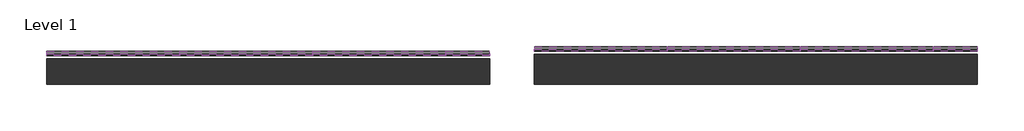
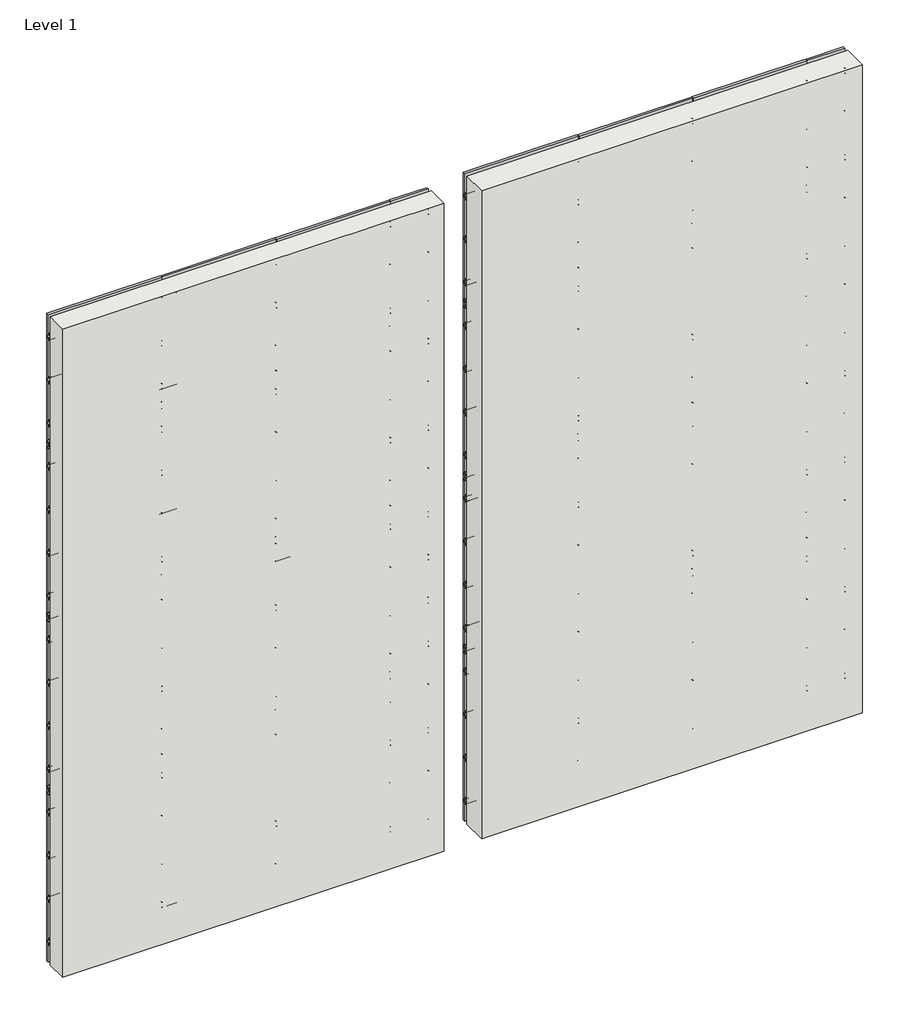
# One storey, incomplete: 32 plates, 24 members, 2 walls.
"""IFC4 building model written with IfcOpenShell, lengths in millimetres."""

from ifc_helpers import new_model, si_unit, origin, origin_with_axes, place, context, project, spatial, polyline, outline, extrude, transform, mapped, element, save
from components import rectangular_mullion_kws_revealrail_mullion_9bbd98a8, rectangular_mullion_kws_revealrail_mullion_add762a1, rectangular_mullion_kws_revealrail_mullion_47fc8865, plate_96b6a4fe, plate_c225038f, plate_bb21e225, plate_c696ad90

model = new_model("IFC4")

# Units and contexts
model_context = context("Model", 3, world=origin())
ifc_project = project(units=[si_unit("LENGTHUNIT", "METRE", prefix="MILLI")], contexts=[model_context])

# Site, building, storey
site = spatial("IfcSite", under=ifc_project)
building = spatial("IfcBuilding", under=site)
storey = spatial("IfcBuildingStorey", under=building, Name="Level 1", Elevation=0.0)

# Members
placement = place(None, origin())
rectangular_mullion_kws_revealrail_mullion_shape = rectangular_mullion_kws_revealrail_mullion_9bbd98a8(model_context)
element("IfcMember", 1, ObjectType="Rectangular Mullion : KWS_RevealRail_Mullion", at=placement, inside=storey, context=model_context, shape_type="MappedRepresentation", body=[
    mapped(rectangular_mullion_kws_revealrail_mullion_shape, transform((2855.9764743, 7373.7586092, 2438.4), x_axis=(0.0, 0.0, 1.0), y_axis=(0.0, -1.0, 0.0), z_axis=(1.0, 0.0, 0.0))),
])
element("IfcMember", 2, ObjectType="Rectangular Mullion : KWS_RevealRail_Mullion", at=placement, inside=storey, context=model_context, shape_type="MappedRepresentation", body=[
    mapped(rectangular_mullion_kws_revealrail_mullion_shape, transform((2855.9764743, 7373.7586092, 4876.8), x_axis=(0.0, 0.0, 1.0), y_axis=(0.0, -1.0, 0.0), z_axis=(1.0, 0.0, 0.0))),
])
element("IfcMember", 3, ObjectType="Rectangular Mullion : KWS_RevealRail_Mullion", at=placement, inside=storey, context=model_context, shape_type="MappedRepresentation", body=[
    mapped(rectangular_mullion_kws_revealrail_mullion_shape, transform((2855.9764743, 7373.7586092, 7315.2), x_axis=(0.0, 0.0, 1.0), y_axis=(0.0, -1.0, 0.0), z_axis=(1.0, 0.0, 0.0))),
])
element("IfcMember", 4, ObjectType="Rectangular Mullion : KWS_RevealRail_Mullion", at=placement, inside=storey, context=model_context, shape_type="MappedRepresentation", body=[
    mapped(rectangular_mullion_kws_revealrail_mullion_shape, transform((8443.9764743, 7424.5586092, 2438.4), x_axis=(0.0, 0.0, 1.0), y_axis=(0.0, -1.0, 0.0), z_axis=(1.0, 0.0, 0.0))),
])
element("IfcMember", 5, ObjectType="Rectangular Mullion : KWS_RevealRail_Mullion", at=placement, inside=storey, context=model_context, shape_type="MappedRepresentation", body=[
    mapped(rectangular_mullion_kws_revealrail_mullion_shape, transform((8443.9764743, 7424.5586092, 4876.8), x_axis=(0.0, 0.0, 1.0), y_axis=(0.0, -1.0, 0.0), z_axis=(1.0, 0.0, 0.0))),
])
element("IfcMember", 6, ObjectType="Rectangular Mullion : KWS_RevealRail_Mullion", at=placement, inside=storey, context=model_context, shape_type="MappedRepresentation", body=[
    mapped(rectangular_mullion_kws_revealrail_mullion_shape, transform((8443.9764743, 7424.5586092, 7315.2), x_axis=(0.0, 0.0, 1.0), y_axis=(0.0, -1.0, 0.0), z_axis=(1.0, 0.0, 0.0))),
])
rectangular_mullion_kws_revealrail_mullion_2_shape = rectangular_mullion_kws_revealrail_mullion_add762a1(model_context)
element("IfcMember", 7, ObjectType="Rectangular Mullion : KWS_RevealRail_Mullion", at=placement, inside=storey, context=model_context, shape_type="MappedRepresentation", body=[
    mapped(rectangular_mullion_kws_revealrail_mullion_2_shape, transform((4379.9764743, 7373.7586092, 2438.4), x_axis=(0.0, 0.0, 1.0), y_axis=(0.0, -1.0, 0.0), z_axis=(1.0, 0.0, 0.0))),
])
element("IfcMember", 8, ObjectType="Rectangular Mullion : KWS_RevealRail_Mullion", at=placement, inside=storey, context=model_context, shape_type="MappedRepresentation", body=[
    mapped(rectangular_mullion_kws_revealrail_mullion_2_shape, transform((5903.9764743, 7373.7586092, 2438.4), x_axis=(0.0, 0.0, 1.0), y_axis=(0.0, -1.0, 0.0), z_axis=(1.0, 0.0, 0.0))),
])
element("IfcMember", 9, ObjectType="Rectangular Mullion : KWS_RevealRail_Mullion", at=placement, inside=storey, context=model_context, shape_type="MappedRepresentation", body=[
    mapped(rectangular_mullion_kws_revealrail_mullion_2_shape, transform((4379.9764743, 7373.7586092, 4876.8), x_axis=(0.0, 0.0, 1.0), y_axis=(0.0, -1.0, 0.0), z_axis=(1.0, 0.0, 0.0))),
])
element("IfcMember", 10, ObjectType="Rectangular Mullion : KWS_RevealRail_Mullion", at=placement, inside=storey, context=model_context, shape_type="MappedRepresentation", body=[
    mapped(rectangular_mullion_kws_revealrail_mullion_2_shape, transform((5903.9764743, 7373.7586092, 4876.8), x_axis=(0.0, 0.0, 1.0), y_axis=(0.0, -1.0, 0.0), z_axis=(1.0, 0.0, 0.0))),
])
element("IfcMember", 11, ObjectType="Rectangular Mullion : KWS_RevealRail_Mullion", at=placement, inside=storey, context=model_context, shape_type="MappedRepresentation", body=[
    mapped(rectangular_mullion_kws_revealrail_mullion_2_shape, transform((4379.9764743, 7373.7586092, 7315.2), x_axis=(0.0, 0.0, 1.0), y_axis=(0.0, -1.0, 0.0), z_axis=(1.0, 0.0, 0.0))),
])
element("IfcMember", 12, ObjectType="Rectangular Mullion : KWS_RevealRail_Mullion", at=placement, inside=storey, context=model_context, shape_type="MappedRepresentation", body=[
    mapped(rectangular_mullion_kws_revealrail_mullion_2_shape, transform((5903.9764743, 7373.7586092, 7315.2), x_axis=(0.0, 0.0, 1.0), y_axis=(0.0, -1.0, 0.0), z_axis=(1.0, 0.0, 0.0))),
])
element("IfcMember", 13, ObjectType="Rectangular Mullion : KWS_RevealRail_Mullion", at=placement, inside=storey, context=model_context, shape_type="MappedRepresentation", body=[
    mapped(rectangular_mullion_kws_revealrail_mullion_2_shape, transform((9967.9764743, 7424.5586092, 2438.4), x_axis=(0.0, 0.0, 1.0), y_axis=(0.0, -1.0, 0.0), z_axis=(1.0, 0.0, 0.0))),
])
element("IfcMember", 14, ObjectType="Rectangular Mullion : KWS_RevealRail_Mullion", at=placement, inside=storey, context=model_context, shape_type="MappedRepresentation", body=[
    mapped(rectangular_mullion_kws_revealrail_mullion_2_shape, transform((11491.9764743, 7424.5586092, 2438.4), x_axis=(0.0, 0.0, 1.0), y_axis=(0.0, -1.0, 0.0), z_axis=(1.0, 0.0, 0.0))),
])
element("IfcMember", 15, ObjectType="Rectangular Mullion : KWS_RevealRail_Mullion", at=placement, inside=storey, context=model_context, shape_type="MappedRepresentation", body=[
    mapped(rectangular_mullion_kws_revealrail_mullion_2_shape, transform((9967.9764743, 7424.5586092, 4876.8), x_axis=(0.0, 0.0, 1.0), y_axis=(0.0, -1.0, 0.0), z_axis=(1.0, 0.0, 0.0))),
])
element("IfcMember", 16, ObjectType="Rectangular Mullion : KWS_RevealRail_Mullion", at=placement, inside=storey, context=model_context, shape_type="MappedRepresentation", body=[
    mapped(rectangular_mullion_kws_revealrail_mullion_2_shape, transform((11491.9764743, 7424.5586092, 4876.8), x_axis=(0.0, 0.0, 1.0), y_axis=(0.0, -1.0, 0.0), z_axis=(1.0, 0.0, 0.0))),
])
element("IfcMember", 17, ObjectType="Rectangular Mullion : KWS_RevealRail_Mullion", at=placement, inside=storey, context=model_context, shape_type="MappedRepresentation", body=[
    mapped(rectangular_mullion_kws_revealrail_mullion_2_shape, transform((9967.9764743, 7424.5586092, 7315.2), x_axis=(0.0, 0.0, 1.0), y_axis=(0.0, -1.0, 0.0), z_axis=(1.0, 0.0, 0.0))),
])
element("IfcMember", 18, ObjectType="Rectangular Mullion : KWS_RevealRail_Mullion", at=placement, inside=storey, context=model_context, shape_type="MappedRepresentation", body=[
    mapped(rectangular_mullion_kws_revealrail_mullion_2_shape, transform((11491.9764743, 7424.5586092, 7315.2), x_axis=(0.0, 0.0, 1.0), y_axis=(0.0, -1.0, 0.0), z_axis=(1.0, 0.0, 0.0))),
])
rectangular_mullion_kws_revealrail_mullion_3_shape = rectangular_mullion_kws_revealrail_mullion_47fc8865(model_context)
element("IfcMember", 19, ObjectType="Rectangular Mullion : KWS_RevealRail_Mullion", at=placement, inside=storey, context=model_context, shape_type="MappedRepresentation", body=[
    mapped(rectangular_mullion_kws_revealrail_mullion_3_shape, transform((6411.976474, 7373.7586092, 2438.4), x_axis=(0.0, 0.0, 1.0), y_axis=(0.0, -1.0, 0.0), z_axis=(1.0, 0.0, 0.0))),
])
element("IfcMember", 20, ObjectType="Rectangular Mullion : KWS_RevealRail_Mullion", at=placement, inside=storey, context=model_context, shape_type="MappedRepresentation", body=[
    mapped(rectangular_mullion_kws_revealrail_mullion_3_shape, transform((6411.976474, 7373.7586092, 4876.8), x_axis=(0.0, 0.0, 1.0), y_axis=(0.0, -1.0, 0.0), z_axis=(1.0, 0.0, 0.0))),
])
element("IfcMember", 21, ObjectType="Rectangular Mullion : KWS_RevealRail_Mullion", at=placement, inside=storey, context=model_context, shape_type="MappedRepresentation", body=[
    mapped(rectangular_mullion_kws_revealrail_mullion_3_shape, transform((6411.976474, 7373.7586092, 7315.2), x_axis=(0.0, 0.0, 1.0), y_axis=(0.0, -1.0, 0.0), z_axis=(1.0, 0.0, 0.0))),
])
element("IfcMember", 22, ObjectType="Rectangular Mullion : KWS_RevealRail_Mullion", at=placement, inside=storey, context=model_context, shape_type="MappedRepresentation", body=[
    mapped(rectangular_mullion_kws_revealrail_mullion_3_shape, transform((11999.976474, 7424.5586092, 2438.4), x_axis=(0.0, 0.0, 1.0), y_axis=(0.0, -1.0, 0.0), z_axis=(1.0, 0.0, 0.0))),
])
element("IfcMember", 23, ObjectType="Rectangular Mullion : KWS_RevealRail_Mullion", at=placement, inside=storey, context=model_context, shape_type="MappedRepresentation", body=[
    mapped(rectangular_mullion_kws_revealrail_mullion_3_shape, transform((11999.976474, 7424.5586092, 4876.8), x_axis=(0.0, 0.0, 1.0), y_axis=(0.0, -1.0, 0.0), z_axis=(1.0, 0.0, 0.0))),
])
element("IfcMember", 24, ObjectType="Rectangular Mullion : KWS_RevealRail_Mullion", at=placement, inside=storey, context=model_context, shape_type="MappedRepresentation", body=[
    mapped(rectangular_mullion_kws_revealrail_mullion_3_shape, transform((11999.976474, 7424.5586092, 7315.2), x_axis=(0.0, 0.0, 1.0), y_axis=(0.0, -1.0, 0.0), z_axis=(1.0, 0.0, 0.0))),
])

# Plates
plate_shape = plate_96b6a4fe(model_context)
element("IfcPlate", 25, ObjectType="KWS_Generic-Panel_w_PanelRail-H : 2\" x 3/4\"", at=placement, inside=storey, context=model_context, shape_type="MappedRepresentation", body=[
    mapped(plate_shape, transform((2093.9764741, 7373.7586092, 0.0), x_axis=(1.0, 0.0, 0.0), y_axis=(0.0, 1.0, 0.0), z_axis=(0.0, 0.0, 1.0))),
])
element("IfcPlate", 26, ObjectType="KWS_Generic-Panel_w_PanelRail-H : 2\" x 3/4\"", at=placement, inside=storey, context=model_context, shape_type="MappedRepresentation", body=[
    mapped(plate_shape, transform((3617.9764743, 7373.7586092, 0.0), x_axis=(1.0, 0.0, 0.0), y_axis=(0.0, 1.0, 0.0), z_axis=(0.0, 0.0, 1.0))),
])
element("IfcPlate", 27, ObjectType="KWS_Generic-Panel_w_PanelRail-H : 2\" x 3/4\"", at=placement, inside=storey, context=model_context, shape_type="MappedRepresentation", body=[
    mapped(plate_shape, transform((5141.9764743, 7373.7586092, 0.0), x_axis=(1.0, 0.0, 0.0), y_axis=(0.0, 1.0, 0.0), z_axis=(0.0, 0.0, 1.0))),
])
element("IfcPlate", 28, ObjectType="KWS_Generic-Panel_w_PanelRail-H : 2\" x 3/4\"", at=placement, inside=storey, context=model_context, shape_type="MappedRepresentation", body=[
    mapped(plate_shape, transform((2093.9764741, 7373.7586092, 2438.4), x_axis=(1.0, 0.0, 0.0), y_axis=(0.0, 1.0, 0.0), z_axis=(0.0, 0.0, 1.0))),
])
element("IfcPlate", 29, ObjectType="KWS_Generic-Panel_w_PanelRail-H : 2\" x 3/4\"", at=placement, inside=storey, context=model_context, shape_type="MappedRepresentation", body=[
    mapped(plate_shape, transform((3617.9764743, 7373.7586092, 2438.4), x_axis=(1.0, 0.0, 0.0), y_axis=(0.0, 1.0, 0.0), z_axis=(0.0, 0.0, 1.0))),
])
element("IfcPlate", 30, ObjectType="KWS_Generic-Panel_w_PanelRail-H : 2\" x 3/4\"", at=placement, inside=storey, context=model_context, shape_type="MappedRepresentation", body=[
    mapped(plate_shape, transform((5141.9764743, 7373.7586092, 2438.4), x_axis=(1.0, 0.0, 0.0), y_axis=(0.0, 1.0, 0.0), z_axis=(0.0, 0.0, 1.0))),
])
element("IfcPlate", 31, ObjectType="KWS_Generic-Panel_w_PanelRail-H : 2\" x 3/4\"", at=placement, inside=storey, context=model_context, shape_type="MappedRepresentation", body=[
    mapped(plate_shape, transform((2093.9764741, 7373.7586092, 4876.8), x_axis=(1.0, 0.0, 0.0), y_axis=(0.0, 1.0, 0.0), z_axis=(0.0, 0.0, 1.0))),
])
element("IfcPlate", 32, ObjectType="KWS_Generic-Panel_w_PanelRail-H : 2\" x 3/4\"", at=placement, inside=storey, context=model_context, shape_type="MappedRepresentation", body=[
    mapped(plate_shape, transform((3617.9764743, 7373.7586092, 4876.8), x_axis=(1.0, 0.0, 0.0), y_axis=(0.0, 1.0, 0.0), z_axis=(0.0, 0.0, 1.0))),
])
element("IfcPlate", 33, ObjectType="KWS_Generic-Panel_w_PanelRail-H : 2\" x 3/4\"", at=placement, inside=storey, context=model_context, shape_type="MappedRepresentation", body=[
    mapped(plate_shape, transform((5141.9764743, 7373.7586092, 4876.8), x_axis=(1.0, 0.0, 0.0), y_axis=(0.0, 1.0, 0.0), z_axis=(0.0, 0.0, 1.0))),
])
element("IfcPlate", 34, ObjectType="KWS_Generic-Panel_w_PanelRail-H : 2\" x 3/4\"", at=placement, inside=storey, context=model_context, shape_type="MappedRepresentation", body=[
    mapped(plate_shape, transform((7681.9764741, 7424.5586092, 0.0), x_axis=(1.0, 0.0, 0.0), y_axis=(0.0, 1.0, 0.0), z_axis=(0.0, 0.0, 1.0))),
])
element("IfcPlate", 35, ObjectType="KWS_Generic-Panel_w_PanelRail-H : 2\" x 3/4\"", at=placement, inside=storey, context=model_context, shape_type="MappedRepresentation", body=[
    mapped(plate_shape, transform((9205.9764743, 7424.5586092, 0.0), x_axis=(1.0, 0.0, 0.0), y_axis=(0.0, 1.0, 0.0), z_axis=(0.0, 0.0, 1.0))),
])
element("IfcPlate", 36, ObjectType="KWS_Generic-Panel_w_PanelRail-H : 2\" x 3/4\"", at=placement, inside=storey, context=model_context, shape_type="MappedRepresentation", body=[
    mapped(plate_shape, transform((10729.9764743, 7424.5586092, 0.0), x_axis=(1.0, 0.0, 0.0), y_axis=(0.0, 1.0, 0.0), z_axis=(0.0, 0.0, 1.0))),
])
element("IfcPlate", 37, ObjectType="KWS_Generic-Panel_w_PanelRail-H : 2\" x 3/4\"", at=placement, inside=storey, context=model_context, shape_type="MappedRepresentation", body=[
    mapped(plate_shape, transform((7681.9764741, 7424.5586092, 2438.4), x_axis=(1.0, 0.0, 0.0), y_axis=(0.0, 1.0, 0.0), z_axis=(0.0, 0.0, 1.0))),
])
element("IfcPlate", 38, ObjectType="KWS_Generic-Panel_w_PanelRail-H : 2\" x 3/4\"", at=placement, inside=storey, context=model_context, shape_type="MappedRepresentation", body=[
    mapped(plate_shape, transform((9205.9764743, 7424.5586092, 2438.4), x_axis=(1.0, 0.0, 0.0), y_axis=(0.0, 1.0, 0.0), z_axis=(0.0, 0.0, 1.0))),
])
element("IfcPlate", 39, ObjectType="KWS_Generic-Panel_w_PanelRail-H : 2\" x 3/4\"", at=placement, inside=storey, context=model_context, shape_type="MappedRepresentation", body=[
    mapped(plate_shape, transform((10729.9764743, 7424.5586092, 2438.4), x_axis=(1.0, 0.0, 0.0), y_axis=(0.0, 1.0, 0.0), z_axis=(0.0, 0.0, 1.0))),
])
element("IfcPlate", 40, ObjectType="KWS_Generic-Panel_w_PanelRail-H : 2\" x 3/4\"", at=placement, inside=storey, context=model_context, shape_type="MappedRepresentation", body=[
    mapped(plate_shape, transform((7681.9764741, 7424.5586092, 4876.8), x_axis=(1.0, 0.0, 0.0), y_axis=(0.0, 1.0, 0.0), z_axis=(0.0, 0.0, 1.0))),
])
element("IfcPlate", 41, ObjectType="KWS_Generic-Panel_w_PanelRail-H : 2\" x 3/4\"", at=placement, inside=storey, context=model_context, shape_type="MappedRepresentation", body=[
    mapped(plate_shape, transform((9205.9764743, 7424.5586092, 4876.8), x_axis=(1.0, 0.0, 0.0), y_axis=(0.0, 1.0, 0.0), z_axis=(0.0, 0.0, 1.0))),
])
element("IfcPlate", 42, ObjectType="KWS_Generic-Panel_w_PanelRail-H : 2\" x 3/4\"", at=placement, inside=storey, context=model_context, shape_type="MappedRepresentation", body=[
    mapped(plate_shape, transform((10729.9764743, 7424.5586092, 4876.8), x_axis=(1.0, 0.0, 0.0), y_axis=(0.0, 1.0, 0.0), z_axis=(0.0, 0.0, 1.0))),
])
plate_2_shape = plate_c225038f(model_context)
element("IfcPlate", 43, ObjectType="KWS_Generic-Panel_w_PanelRail-H : 2\" x 3/4\"", at=placement, inside=storey, context=model_context, shape_type="MappedRepresentation", body=[
    mapped(plate_2_shape, transform((6157.9764741, 7373.7586092, 0.0), x_axis=(1.0, 0.0, 0.0), y_axis=(0.0, 1.0, 0.0), z_axis=(0.0, 0.0, 1.0))),
])
element("IfcPlate", 44, ObjectType="KWS_Generic-Panel_w_PanelRail-H : 2\" x 3/4\"", at=placement, inside=storey, context=model_context, shape_type="MappedRepresentation", body=[
    mapped(plate_2_shape, transform((6157.9764741, 7373.7586092, 2438.4), x_axis=(1.0, 0.0, 0.0), y_axis=(0.0, 1.0, 0.0), z_axis=(0.0, 0.0, 1.0))),
])
element("IfcPlate", 45, ObjectType="KWS_Generic-Panel_w_PanelRail-H : 2\" x 3/4\"", at=placement, inside=storey, context=model_context, shape_type="MappedRepresentation", body=[
    mapped(plate_2_shape, transform((6157.9764741, 7373.7586092, 4876.8), x_axis=(1.0, 0.0, 0.0), y_axis=(0.0, 1.0, 0.0), z_axis=(0.0, 0.0, 1.0))),
])
element("IfcPlate", 46, ObjectType="KWS_Generic-Panel_w_PanelRail-H : 2\" x 3/4\"", at=placement, inside=storey, context=model_context, shape_type="MappedRepresentation", body=[
    mapped(plate_2_shape, transform((11745.9764741, 7424.5586092, 0.0), x_axis=(1.0, 0.0, 0.0), y_axis=(0.0, 1.0, 0.0), z_axis=(0.0, 0.0, 1.0))),
])
element("IfcPlate", 47, ObjectType="KWS_Generic-Panel_w_PanelRail-H : 2\" x 3/4\"", at=placement, inside=storey, context=model_context, shape_type="MappedRepresentation", body=[
    mapped(plate_2_shape, transform((11745.9764741, 7424.5586092, 2438.4), x_axis=(1.0, 0.0, 0.0), y_axis=(0.0, 1.0, 0.0), z_axis=(0.0, 0.0, 1.0))),
])
element("IfcPlate", 48, ObjectType="KWS_Generic-Panel_w_PanelRail-H : 2\" x 3/4\"", at=placement, inside=storey, context=model_context, shape_type="MappedRepresentation", body=[
    mapped(plate_2_shape, transform((11745.9764741, 7424.5586092, 4876.8), x_axis=(1.0, 0.0, 0.0), y_axis=(0.0, 1.0, 0.0), z_axis=(0.0, 0.0, 1.0))),
])
plate_3_shape = plate_bb21e225(model_context)
element("IfcPlate", 49, ObjectType="KWS_Generic-Panel_w_PanelRail-H : 2\" x 3/4\"", at=placement, inside=storey, context=model_context, shape_type="MappedRepresentation", body=[
    mapped(plate_3_shape, transform((2093.9764741, 7373.7586092, 7315.2), x_axis=(1.0, 0.0, 0.0), y_axis=(0.0, 1.0, 0.0), z_axis=(0.0, 0.0, 1.0))),
])
element("IfcPlate", 50, ObjectType="KWS_Generic-Panel_w_PanelRail-H : 2\" x 3/4\"", at=placement, inside=storey, context=model_context, shape_type="MappedRepresentation", body=[
    mapped(plate_3_shape, transform((3617.9764743, 7373.7586092, 7315.2), x_axis=(1.0, 0.0, 0.0), y_axis=(0.0, 1.0, 0.0), z_axis=(0.0, 0.0, 1.0))),
])
element("IfcPlate", 51, ObjectType="KWS_Generic-Panel_w_PanelRail-H : 2\" x 3/4\"", at=placement, inside=storey, context=model_context, shape_type="MappedRepresentation", body=[
    mapped(plate_3_shape, transform((5141.9764743, 7373.7586092, 7315.2), x_axis=(1.0, 0.0, 0.0), y_axis=(0.0, 1.0, 0.0), z_axis=(0.0, 0.0, 1.0))),
])
element("IfcPlate", 52, ObjectType="KWS_Generic-Panel_w_PanelRail-H : 2\" x 3/4\"", at=placement, inside=storey, context=model_context, shape_type="MappedRepresentation", body=[
    mapped(plate_3_shape, transform((7681.9764741, 7424.5586092, 7315.2), x_axis=(1.0, 0.0, 0.0), y_axis=(0.0, 1.0, 0.0), z_axis=(0.0, 0.0, 1.0))),
])
element("IfcPlate", 53, ObjectType="KWS_Generic-Panel_w_PanelRail-H : 2\" x 3/4\"", at=placement, inside=storey, context=model_context, shape_type="MappedRepresentation", body=[
    mapped(plate_3_shape, transform((9205.9764743, 7424.5586092, 7315.2), x_axis=(1.0, 0.0, 0.0), y_axis=(0.0, 1.0, 0.0), z_axis=(0.0, 0.0, 1.0))),
])
element("IfcPlate", 54, ObjectType="KWS_Generic-Panel_w_PanelRail-H : 2\" x 3/4\"", at=placement, inside=storey, context=model_context, shape_type="MappedRepresentation", body=[
    mapped(plate_3_shape, transform((10729.9764743, 7424.5586092, 7315.2), x_axis=(1.0, 0.0, 0.0), y_axis=(0.0, 1.0, 0.0), z_axis=(0.0, 0.0, 1.0))),
])
plate_4_shape = plate_c696ad90(model_context)
element("IfcPlate", 55, ObjectType="KWS_Generic-Panel_w_PanelRail-H : 2\" x 3/4\"", at=placement, inside=storey, context=model_context, shape_type="MappedRepresentation", body=[
    mapped(plate_4_shape, transform((6157.9764741, 7373.7586092, 7315.2), x_axis=(1.0, 0.0, 0.0), y_axis=(0.0, 1.0, 0.0), z_axis=(0.0, 0.0, 1.0))),
])
element("IfcPlate", 56, ObjectType="KWS_Generic-Panel_w_PanelRail-H : 2\" x 3/4\"", at=placement, inside=storey, context=model_context, shape_type="MappedRepresentation", body=[
    mapped(plate_4_shape, transform((11745.9764741, 7424.5586092, 7315.2), x_axis=(1.0, 0.0, 0.0), y_axis=(0.0, 1.0, 0.0), z_axis=(0.0, 0.0, 1.0))),
])

# Walls
element("IfcWall", 57, ObjectType="Exterior - Backup Wall System - Concrete Block", at=placement, inside=storey, context=model_context, shape_type="SweptSolid", body=[
    extrude(outline(polyline([(6411.976474, 7046.7336092), (1331.976474, 7046.7336092), (1331.976474, 7335.6586092), (6411.976474, 7335.6586092), (6411.976474, 7046.7336092)])), origin_with_axes(), (0.0, 0.0, 1.0), 9144.0),
])
element("IfcWall", 58, ObjectType="Exterior - Backup Wall System - Concrete Block 2", at=placement, inside=storey, context=model_context, shape_type="SweptSolid", body=[
    extrude(outline(polyline([(11999.976474, 7046.7336092), (6919.976474, 7046.7336092), (6919.976474, 7386.4586092), (11999.976474, 7386.4586092), (11999.976474, 7046.7336092)])), origin_with_axes(), (0.0, 0.0, 1.0), 9144.0),
])

save(model, "model.ifc")
